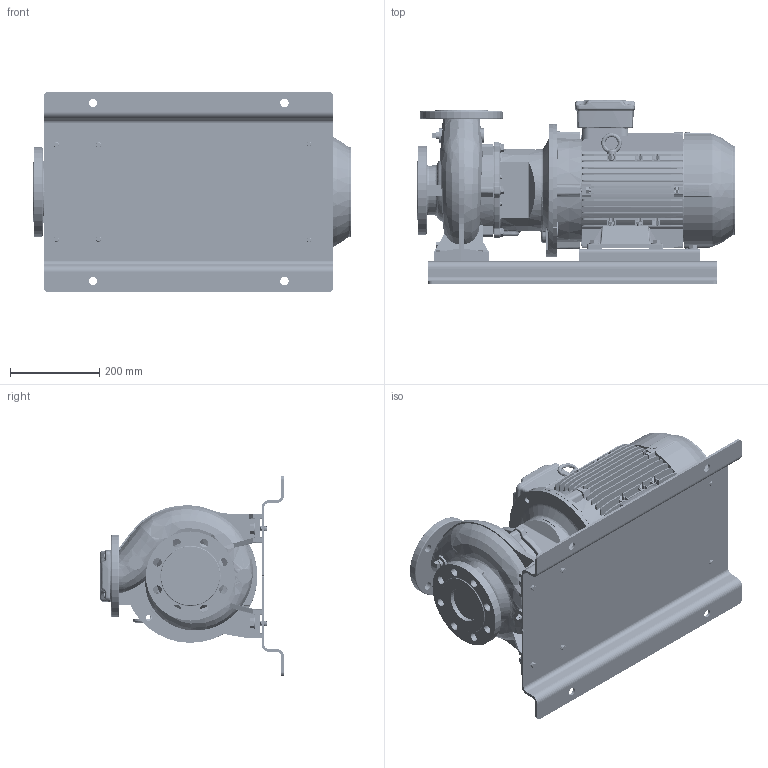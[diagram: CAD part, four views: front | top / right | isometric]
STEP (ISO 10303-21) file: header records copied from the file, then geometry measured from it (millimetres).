
FILE_DESCRIPTION (( 'STEP AP214' ), '1' );
FILE_NAME ('GSD2 65-125_5.5 & 7.5_(132S)_W21_BP.STEP', '2024-05-17T02:35:26', ( '' ), ( '' ), 'SwSTEP 2.0', 'SolidWorks 2019', '' );
FILE_SCHEMA (( 'AUTOMOTIVE_DESIGN' ));
Length unit declared in the file: millimetre
Products named in the file (20): 132S ALIE3_W21T_B35; Parametric Flat Washer_M10; Parametric bolt and washer_SFT-A299B; Parametric bolt and washer_SFT-A253B; Parametric bolt_SFT-A299B; GSD2  65-125_5.5 & 7.5_(132S)_W21_BP; N4S4 GSDA-442 F1-1832913-00; Parametric bolt and washer_SFT-A275B; 65-125-132S_______; Parametric bolt_SFT-A253B; Parametric Flat Washer_M12; Parametric bolt_SFT-A257B; 140_178 x 28 - 271472025
Assembly tree (35 placements, depth 3):
  GSD2  65-125_5.5 & 7.5_(132S)_W21_BP
    65-125-132S_______
    N4S4 GSDA-442 F1-1832913-00
    140_178 x 28 - 271472025  x2
    Parametric bolt and washer_SFT-A299B
      Parametric bolt_SFT-A299B
      Parametric Flat Washer_M12
    Parametric bolt and washer_SFT-A299B
      Parametric bolt_SFT-A299B
      Parametric Flat Washer_M12
    Parametric bolt and washer_SFT-A299B
      Parametric bolt_SFT-A299B
      Parametric Flat Washer_M12
    Parametric bolt and washer_SFT-A299B
      Parametric bolt_SFT-A299B
      Parametric Flat Washer_M12
    Parametric bolt and washer_SFT-A275B
      Parametric bolt_SFT-A257B
      Parametric Flat Washer_M10
    Parametric bolt and washer_SFT-A275B
      Parametric bolt_SFT-A257B
      Parametric Flat Washer_M10
    Parametric bolt and washer_SFT-A253B
      Parametric bolt_SFT-A253B
      Parametric Flat Washer_M10
    Parametric bolt and washer_SFT-A253B
      Parametric bolt_SFT-A253B
      Parametric Flat Washer_M10
    Parametric bolt and washer_SFT-A253B
      Parametric bolt_SFT-A253B
      Parametric Flat Washer_M10
    Parametric bolt and washer_SFT-A253B
      Parametric bolt_SFT-A253B
      Parametric Flat Washer_M10
    132S ALIE3_W21T_B35
Bounding box: 714.8 x 413 x 450 mm (x, y, z)
Volume: 30786118.9 mm3; surface area: 2634369 mm2
Topology: 35 solids, 35 shells, 4747 faces, 12307 edges, 7950 vertices
Faces by surface type: plane 2871, cylinder 1100, torus 281, bspline 257, cone 206, sphere 32
Entity records: 170202 total; most frequent: CARTESIAN_POINT 65599, ORIENTED_EDGE 22378, DIRECTION 20326, EDGE_CURVE 11189, LINE 7586, VECTOR 7586, VERTEX_POINT 7234, AXIS2_PLACEMENT_3D 6370
